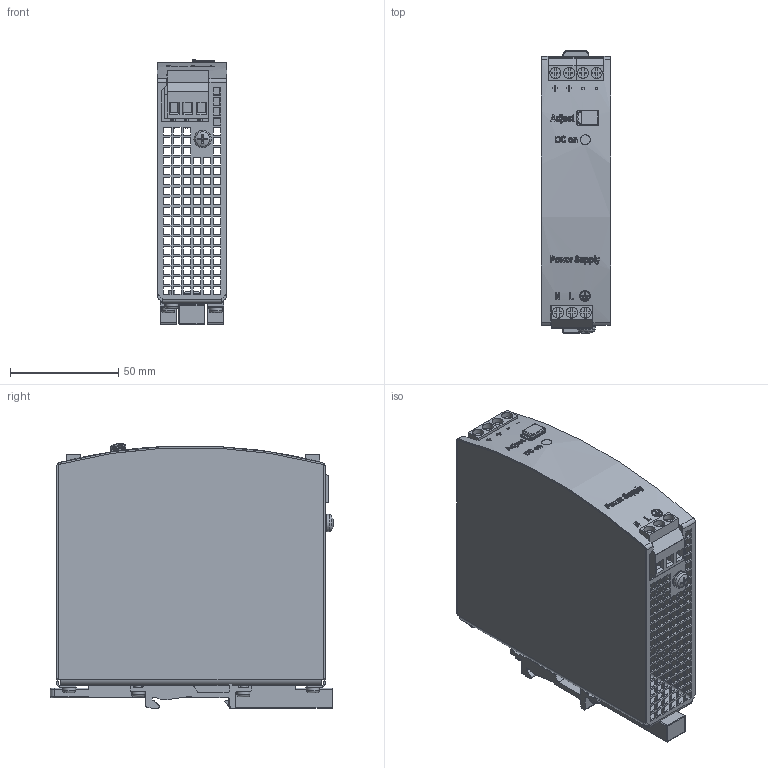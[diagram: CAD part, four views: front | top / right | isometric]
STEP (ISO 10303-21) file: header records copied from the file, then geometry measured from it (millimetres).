
FILE_DESCRIPTION((''),'2;1');
FILE_NAME('C:\Dokumente und Einstellungen\raabk-neu\Eigene Dateien\tmp\MOCKUP\CS5.241.stp','2007-12-03T13:31:32',('raabk'),(''),'Autodesk Inventor 11','Autodesk Inventor 11','');
FILE_SCHEMA(('AUTOMOTIVE_DESIGN { 1 0 10303 214 1 1 1 1 }'));
Length unit declared in the file: millimetre
Products named in the file (12): 365.00; HOUSING BODY 365.00; HOUSING COVER 365.00; SCREW 3x6; T HOLDER; SLIDER; WASHER 4; SCREW 4x8; POTENTIOMETER COVER; TERMINAL 2P R6,35 T; TERMINAL 3P R6,35 T; LED GN
Assembly tree (18 placements, depth 2):
  365.00
    HOUSING BODY 365.00
    HOUSING COVER 365.00
    SCREW 3x6  x6
    T HOLDER  x2
    SLIDER
    WASHER 4
    SCREW 4x8
    POTENTIOMETER COVER
    TERMINAL 2P R6,35 T  x2
    TERMINAL 3P R6,35 T
    LED GN
Bounding box: 32.04 x 130.77 x 122.37 mm (x, y, z)
Volume: 74379.2 mm3; surface area: 92928.6 mm2
Topology: 18 solids, 18 shells, 1983 faces, 5467 edges, 3606 vertices
Faces by surface type: plane 1517, cylinder 207, bspline 200, torus 26, cone 20, sphere 13
Full cylindrical faces by diameter (mm): 0.05 x4, 3 x6, 3.1 x4, 3.621 x1, 4 x1, 4.355 x1, 4.5 x1, 4.6 x1, 5.15 x7, 6 x6
Entity records: 110824 total; most frequent: CARTESIAN_POINT 65691, ORIENTED_EDGE 9800, DIRECTION 7920, EDGE_CURVE 4900, VECTOR 3896, LINE 3896, VERTEX_POINT 3241, EDGE_LOOP 2287
